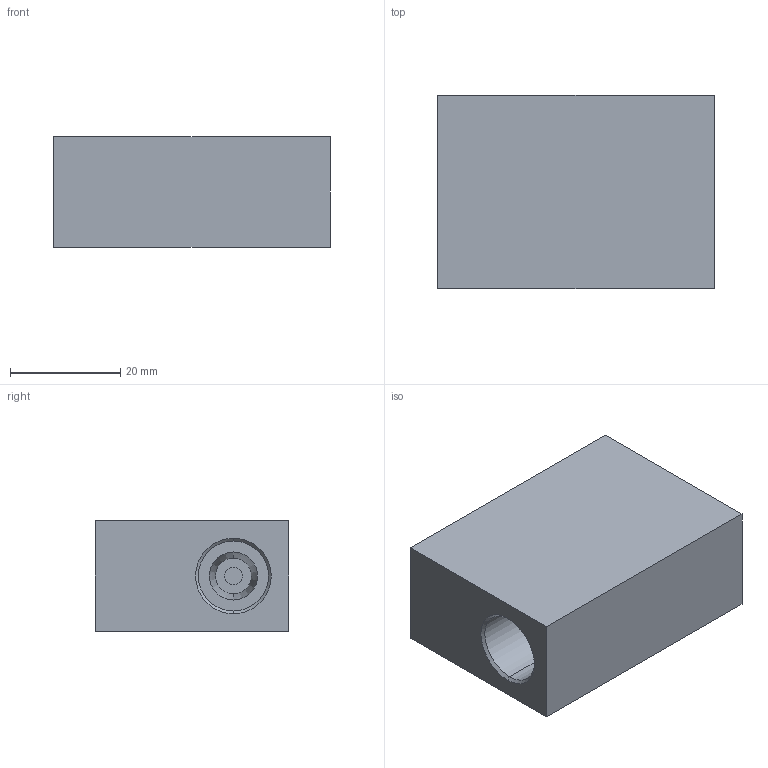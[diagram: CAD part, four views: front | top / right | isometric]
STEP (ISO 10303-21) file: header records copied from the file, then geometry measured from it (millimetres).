
FILE_DESCRIPTION (( 'STEP AP203' ), '1' );
FILE_NAME ('FT15TS04.STEP', '2026-06-26T01:22:02', ( 'USER' ), ( '' ), 'SwSTEP 2.0', 'SolidWorks 2023', '' );
FILE_SCHEMA (( 'CONFIG_CONTROL_DESIGN' ));
Length unit declared in the file: millimetre
Products named in the file (1): FT15TS04
Bounding box: 50 x 35 x 20 mm (x, y, z)
Volume: 29904.4 mm3; surface area: 8623.2 mm2
Topology: 1 solids, 1 shells, 45 faces, 90 edges, 56 vertices
Faces by surface type: cylinder 18, plane 15, cone 12
Entity records: 1253 total; most frequent: DIRECTION 230, CARTESIAN_POINT 192, ORIENTED_EDGE 180, AXIS2_PLACEMENT_3D 94, EDGE_CURVE 90, VERTEX_POINT 56, EDGE_LOOP 54, CIRCLE 48
